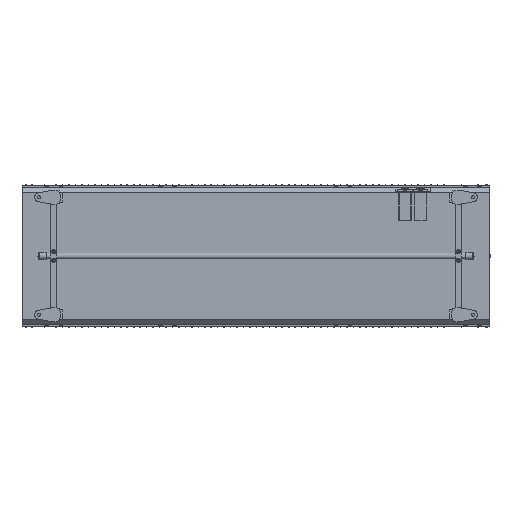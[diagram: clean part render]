
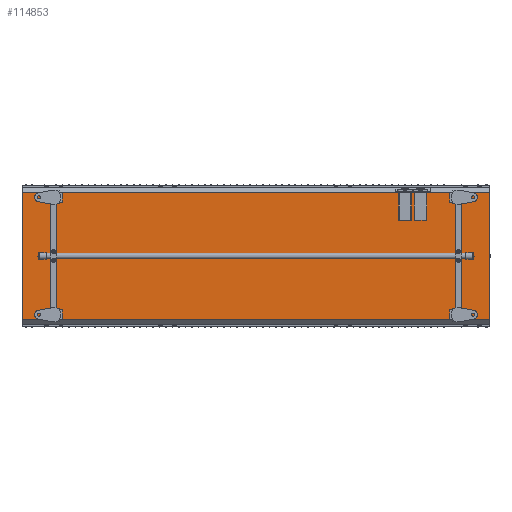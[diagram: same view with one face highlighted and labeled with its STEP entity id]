
A CAD part, front view. The second image highlights one B-rep face of the part: STEP entity #114853.
In plain terms, the highlighted planar face has unit normal (0, -1, 0).
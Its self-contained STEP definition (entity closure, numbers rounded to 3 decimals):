
#1198 = VERTEX_POINT ( 'NONE', #31928 ) ;
#1429 = CARTESIAN_POINT ( 'NONE',  ( 2610.255, -215.213, 269.787 ) ) ;
#3212 = LINE ( 'NONE', #24693, #12336 ) ;
#5173 = DIRECTION ( 'NONE',  ( 0., 0., -1. ) ) ;
#12336 = VECTOR ( 'NONE', #5173, 1000. ) ;
#13264 = EDGE_CURVE ( 'NONE', #1198, #28600, #14794, .T. ) ;
#14794 = LINE ( 'NONE', #22602, #119823 ) ;
#18367 = CARTESIAN_POINT ( 'NONE',  ( 0., -215.213, -269.787 ) ) ;
#18383 = AXIS2_PLACEMENT_3D ( 'NONE', #1429, #21367, #69553 ) ;
#21367 = DIRECTION ( 'NONE',  ( 0., 1., 0. ) ) ;
#22602 = CARTESIAN_POINT ( 'NONE',  ( 1985., -215.213, -269.787 ) ) ;
#23132 = DIRECTION ( 'NONE',  ( -1., 0., 0. ) ) ;
#24693 = CARTESIAN_POINT ( 'NONE',  ( 0., -215.213, 269.787 ) ) ;
#26858 = CARTESIAN_POINT ( 'NONE',  ( 0., -215.213, 269.787 ) ) ;
#27973 = VECTOR ( 'NONE', #23132, 1000. ) ;
#28600 = VERTEX_POINT ( 'NONE', #18367 ) ;
#31928 = CARTESIAN_POINT ( 'NONE',  ( 1985., -215.213, -269.787 ) ) ;
#33477 = CARTESIAN_POINT ( 'NONE',  ( 1985., -215.213, 269.787 ) ) ;
#34093 = FACE_OUTER_BOUND ( 'NONE', #53131, .T. ) ;
#37583 = ORIENTED_EDGE ( 'NONE', *, *, #81953, .T. ) ;
#52552 = CARTESIAN_POINT ( 'NONE',  ( 2610.255, -215.213, 269.787 ) ) ;
#53131 = EDGE_LOOP ( 'NONE', ( #93890, #120534, #37583, #62517 ) ) ;
#57342 = CARTESIAN_POINT ( 'NONE',  ( 1985., -215.213, 269.787 ) ) ;
#62517 = ORIENTED_EDGE ( 'NONE', *, *, #83870, .T. ) ;
#69553 = DIRECTION ( 'NONE',  ( 0., 0., 1. ) ) ;
#73714 = LINE ( 'NONE', #52552, #27973 ) ;
#81953 = EDGE_CURVE ( 'NONE', #93000, #117868, #73714, .T. ) ;
#83870 = EDGE_CURVE ( 'NONE', #117868, #28600, #3212, .T. ) ;
#89088 = PLANE ( 'NONE',  #18383 ) ;
#90332 = EDGE_CURVE ( 'NONE', #1198, #93000, #96253, .T. ) ;
#93000 = VERTEX_POINT ( 'NONE', #33477 ) ;
#93890 = ORIENTED_EDGE ( 'NONE', *, *, #13264, .F. ) ;
#96253 = LINE ( 'NONE', #57342, #111572 ) ;
#96384 = DIRECTION ( 'NONE',  ( 0., 0., 1. ) ) ;
#111572 = VECTOR ( 'NONE', #96384, 1000. ) ;
#114853 = ADVANCED_FACE ( 'NONE', ( #34093 ), #89088, .F. ) ;
#117868 = VERTEX_POINT ( 'NONE', #26858 ) ;
#119823 = VECTOR ( 'NONE', #120104, 1000. ) ;
#120104 = DIRECTION ( 'NONE',  ( -1., 0., 0. ) ) ;
#120534 = ORIENTED_EDGE ( 'NONE', *, *, #90332, .T. ) ;
